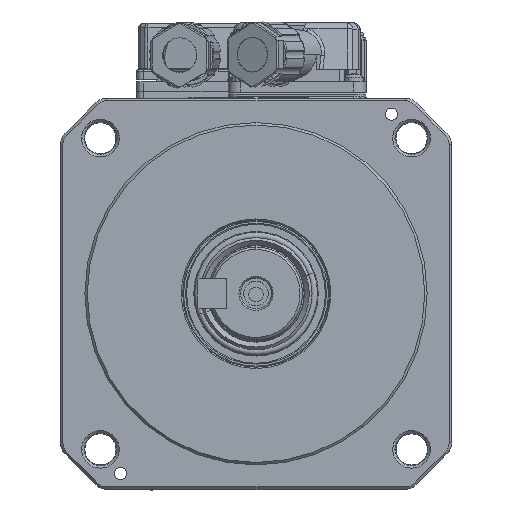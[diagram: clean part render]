
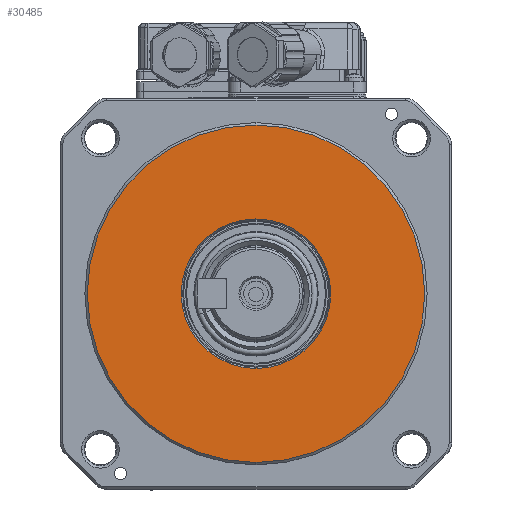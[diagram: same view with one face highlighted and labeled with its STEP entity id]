
A CAD part, top view. The second image highlights one B-rep face of the part: STEP entity #30485.
In plain terms, the highlighted planar face has unit normal (0, 0, 1).
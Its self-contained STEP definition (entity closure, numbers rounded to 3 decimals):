
#1702 = VERTEX_POINT ( 'NONE', #43713 ) ;
#5548 = AXIS2_PLACEMENT_3D ( 'NONE', #66259, #77677, #33672 ) ;
#6318 = EDGE_CURVE ( 'NONE', #72850, #1702, #28498, .T. ) ;
#9374 = AXIS2_PLACEMENT_3D ( 'NONE', #40424, #34502, #64456 ) ;
#11559 = ORIENTED_EDGE ( 'NONE', *, *, #70382, .F. ) ;
#11782 = PLANE ( 'NONE',  #65439 ) ;
#19497 = VERTEX_POINT ( 'NONE', #20115 ) ;
#20115 = CARTESIAN_POINT ( 'NONE',  ( 0., -15.289, 0. ) ) ;
#21270 = DIRECTION ( 'NONE',  ( 0., 0., 1. ) ) ;
#22085 = CARTESIAN_POINT ( 'NONE',  ( 0., 15.289, 0. ) ) ;
#22225 = AXIS2_PLACEMENT_3D ( 'NONE', #50415, #21270, #33486 ) ;
#23803 = CIRCLE ( 'NONE', #67846, 15.289 ) ;
#27565 = ORIENTED_EDGE ( 'NONE', *, *, #54270, .F. ) ;
#28498 = CIRCLE ( 'NONE', #22225, 34.5 ) ;
#30485 = ADVANCED_FACE ( 'NONE', ( #41740, #76428 ), #11782, .F. ) ;
#32341 = DIRECTION ( 'NONE',  ( 0., -1., 0. ) ) ;
#32921 = ORIENTED_EDGE ( 'NONE', *, *, #46330, .T. ) ;
#33325 = CARTESIAN_POINT ( 'NONE',  ( 0., 34.5, 0. ) ) ;
#33486 = DIRECTION ( 'NONE',  ( 0., -1., 0. ) ) ;
#33672 = DIRECTION ( 'NONE',  ( 0., -1., 0. ) ) ;
#34502 = DIRECTION ( 'NONE',  ( 0., 0., 1. ) ) ;
#34739 = EDGE_LOOP ( 'NONE', ( #56633, #32921 ) ) ;
#40424 = CARTESIAN_POINT ( 'NONE',  ( 0., 0., 0. ) ) ;
#41740 = FACE_BOUND ( 'NONE', #70926, .T. ) ;
#43358 = CIRCLE ( 'NONE', #9374, 34.5 ) ;
#43713 = CARTESIAN_POINT ( 'NONE',  ( 0., -34.5, 0. ) ) ;
#46330 = EDGE_CURVE ( 'NONE', #1702, #72850, #43358, .T. ) ;
#47246 = CARTESIAN_POINT ( 'NONE',  ( 0., 14.7, 0. ) ) ;
#49652 = DIRECTION ( 'NONE',  ( 0., 0., 1. ) ) ;
#50415 = CARTESIAN_POINT ( 'NONE',  ( 0., 0., 0. ) ) ;
#52767 = DIRECTION ( 'NONE',  ( 0., 0., -1. ) ) ;
#54270 = EDGE_CURVE ( 'NONE', #65963, #19497, #67356, .T. ) ;
#56633 = ORIENTED_EDGE ( 'NONE', *, *, #6318, .T. ) ;
#64456 = DIRECTION ( 'NONE',  ( 0., -1., 0. ) ) ;
#65439 = AXIS2_PLACEMENT_3D ( 'NONE', #47246, #52767, #71682 ) ;
#65963 = VERTEX_POINT ( 'NONE', #22085 ) ;
#66259 = CARTESIAN_POINT ( 'NONE',  ( 0., 0., 0. ) ) ;
#67356 = CIRCLE ( 'NONE', #5548, 15.289 ) ;
#67846 = AXIS2_PLACEMENT_3D ( 'NONE', #74475, #49652, #32341 ) ;
#70382 = EDGE_CURVE ( 'NONE', #19497, #65963, #23803, .T. ) ;
#70926 = EDGE_LOOP ( 'NONE', ( #11559, #27565 ) ) ;
#71682 = DIRECTION ( 'NONE',  ( 0., 1., 0. ) ) ;
#72850 = VERTEX_POINT ( 'NONE', #33325 ) ;
#74475 = CARTESIAN_POINT ( 'NONE',  ( 0., 0., 0. ) ) ;
#76428 = FACE_OUTER_BOUND ( 'NONE', #34739, .T. ) ;
#77677 = DIRECTION ( 'NONE',  ( 0., 0., 1. ) ) ;
